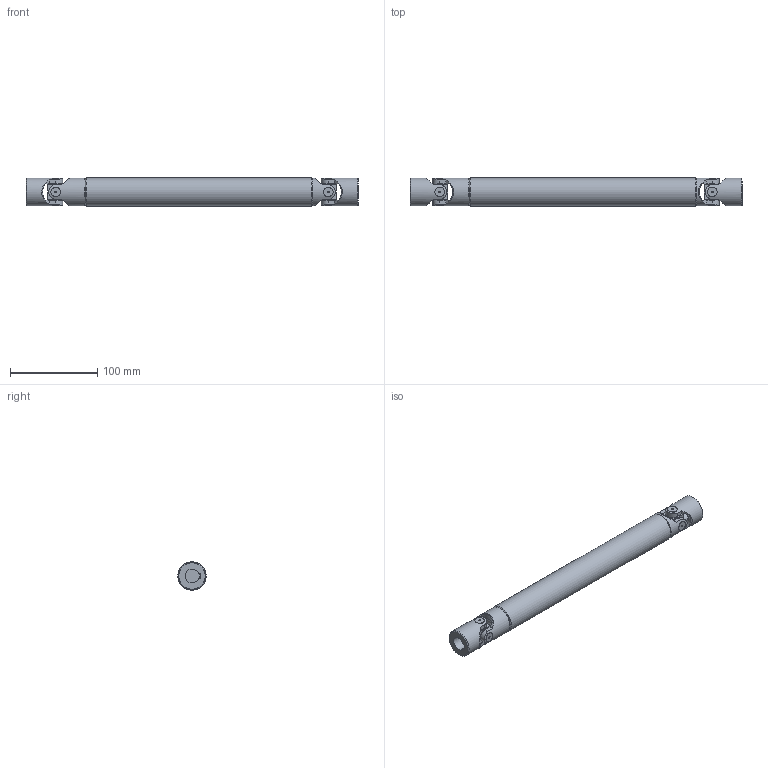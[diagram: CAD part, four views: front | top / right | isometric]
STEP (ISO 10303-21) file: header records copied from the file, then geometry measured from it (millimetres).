
FILE_DESCRIPTION(/* description */ (''),/* implementation_level */ '2;1');
FILE_NAME(/* name */ '\\SRV2016\Societa\Stefano\Disegni 3D\00Catalogo 3D\03Trasmissioni standard GA\1GA32\1GA32_SG0A1632.stp',/* time_stamp */ '2022-02-16T16:25:10+01:00',/* author */ ('acquisti'),/* organization */ (''),/* preprocessor_version */ 'ST-DEVELOPER v15.6',/* originating_system */ 'Autodesk Inventor 2015',/* authorisation */ '');
FILE_SCHEMA (('AUTOMOTIVE_DESIGN { 1 0 10303 214 3 1 1 }'));
Length unit declared in the file: millimetre
Products named in the file (5): 1GA32 LAI; 1GA32 LCI; 1G MOC; 1G SFE; 1GA32_SG0A1632
Assembly tree (6 placements, depth 2):
  1GA32_SG0A1632
    1GA32 LAI
    1GA32 LCI
    1G MOC  x2
    1G SFE  x2
Bounding box: 380 x 32.5 x 32.5 mm (x, y, z)
Volume: 214392.6 mm3; surface area: 91323.8 mm2
Topology: 6 solids, 6 shells, 228 faces, 551 edges, 359 vertices
Faces by surface type: plane 106, cylinder 93, cone 25, torus 4
Full cylindrical faces by diameter (mm): 2 x8, 15.5 x8, 16 x1, 18 x2, 27 x1, 32 x4, 32.5 x1
Entity records: 5689 total; most frequent: CARTESIAN_POINT 1639, DIRECTION 823, ORIENTED_EDGE 796, EDGE_CURVE 398, AXIS2_PLACEMENT_3D 335, VERTEX_POINT 274, EDGE_LOOP 224, FACE_OUTER_BOUND 176
